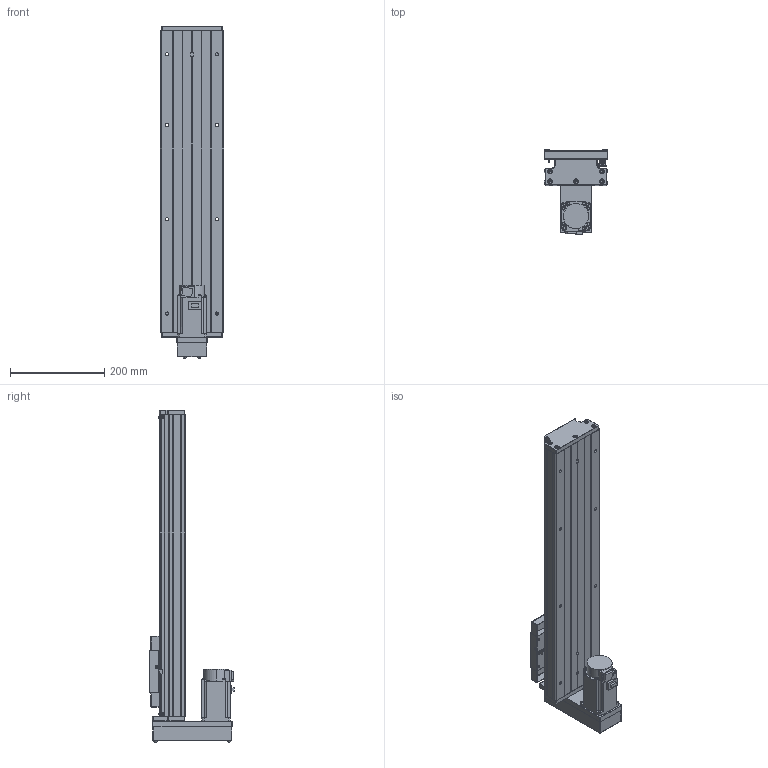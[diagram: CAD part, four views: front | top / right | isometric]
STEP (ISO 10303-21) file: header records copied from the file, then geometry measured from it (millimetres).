
FILE_DESCRIPTION (( 'STEP AP203' ), '1' );
FILE_NAME ('CTH130-450-BM-M40-C4.step', '2023-06-30T02:44:53', ( '微软用户' ), ( '微软中国' ), 'SwSTEP 2.0', 'SolidWorks 2020', '' );
FILE_SCHEMA (( 'CONFIG_CONTROL_DESIGN' ));
Length unit declared in the file: millimetre
Products named in the file (20): HG-KN43J-S100; GB T308.1-2013-6.35; CTHA60-016; GBT 70.2-M4¡Á35_M4¡Á35; GTH14-004; GBT 70.1-M3℅5; GTH14-015-2_CTHA86-015-2; GTH14-005; GBT77-2000 M3×3; GTH14-033; GB1155-6X6; CTH130-031; CTH130-450-BM-M40-C4; GBT70.1 M5℅16; GBT 70.2-M3¡Á5_M3¡Á6; GTH14-001_450; CTHA60-017; す晦芛蹟隊 M3℅5; CTH130-002_GTH14-002; EE_SX911P_R
Assembly tree (60 placements, depth 2):
  CTH130-450-BM-M40-C4
    GTH14-001_450
    CTH130-002_GTH14-002
    GB T308.1-2013-6.35  x2
    GTH14-004
    GTH14-005
    GB1155-6X6  x2
    GBT70.1 M5℅16  x10
    CTHA60-017  x3
    EE_SX911P_R  x3
    CTHA60-016  x2
    GBT 70.1-M3℅5  x6
    GBT77-2000 M3×3  x6
    CTH130-031
    GBT 70.2-M3¡Á5_M3¡Á6  x8
    す晦芛蹟隊 M3℅5  x6
    HG-KN43J-S100
    GBT 70.2-M4¡Á35_M4¡Á35  x4
    GTH14-015-2_CTHA86-015-2
    GTH14-033
Bounding box: 135 x 179.8 x 704.2 mm (x, y, z)
Volume: 3909651.2 mm3; surface area: 692859.6 mm2
Topology: 63 solids, 63 shells, 2425 faces, 5773 edges, 3569 vertices
Faces by surface type: plane 1308, cylinder 638, cone 299, torus 124, sphere 36, bspline 20
Entity records: 43616 total; most frequent: CARTESIAN_POINT 9797, DIRECTION 6342, ORIENTED_EDGE 6252, EDGE_CURVE 3126, AXIS2_PLACEMENT_3D 2158, VECTOR 2026, LINE 2026, VERTEX_POINT 1979
